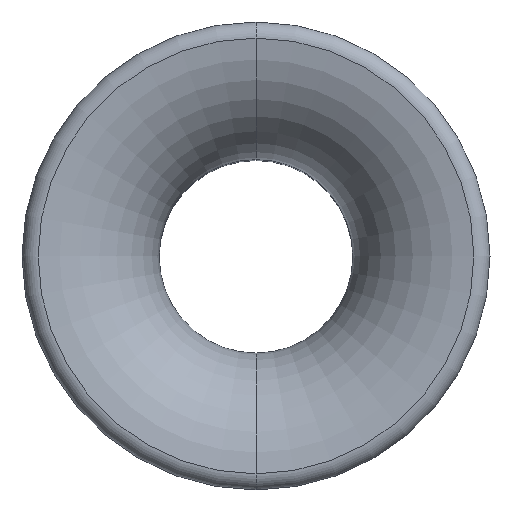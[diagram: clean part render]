
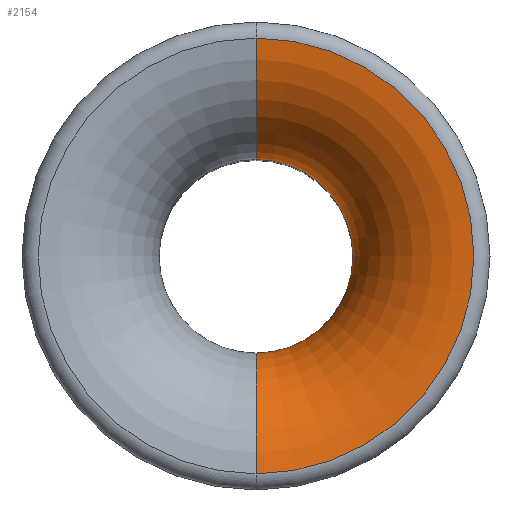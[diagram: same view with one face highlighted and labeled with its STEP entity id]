
A CAD part, top view. The second image highlights one B-rep face of the part: STEP entity #2154.
In plain terms, the highlighted toroidal (fillet/blend) face has major radius 14 mm and minor radius 8 mm.
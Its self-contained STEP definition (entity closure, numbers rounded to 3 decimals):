
#2154 = ADVANCED_FACE ( 'NONE', ( #3563 ), #3792, .T. ) ;
#2155 = EDGE_LOOP ( 'NONE', ( #2156, #2160, #2163, #2212 ) ) ;
#2156 = ORIENTED_EDGE ( 'NONE', *, *, #2157, .T. ) ;
#2157 = EDGE_CURVE ( 'NONE', #2158, #2159, #3789, .T. ) ;
#2158 = VERTEX_POINT ( 'NONE', #3784 ) ;
#2159 = VERTEX_POINT ( 'NONE', #3783 ) ;
#2160 = ORIENTED_EDGE ( 'NONE', *, *, #2161, .T. ) ;
#2161 = EDGE_CURVE ( 'NONE', #2159, #2162, #3782, .T. ) ;
#2162 = VERTEX_POINT ( 'NONE', #3777 ) ;
#2163 = ORIENTED_EDGE ( 'NONE', *, *, #2210, .F. ) ;
#2210 = EDGE_CURVE ( 'NONE', #2211, #2162, #3755, .T. ) ;
#2211 = VERTEX_POINT ( 'NONE', #3750 ) ;
#2212 = ORIENTED_EDGE ( 'NONE', *, *, #2213, .F. ) ;
#2213 = EDGE_CURVE ( 'NONE', #2158, #2211, #3748, .T. ) ;
#3561 = CARTESIAN_POINT ( 'NONE',  ( 0., 0., 38.516 ) ) ;
#3562 = DIRECTION ( 'NONE',  ( 0., 0., 1. ) ) ;
#3563 = FACE_OUTER_BOUND ( 'NONE', #2155, .T. ) ;
#3744 = DIRECTION ( 'NONE',  ( 0., 0., 1. ) ) ;
#3745 = DIRECTION ( 'NONE',  ( -1., 0., 0. ) ) ;
#3746 = CARTESIAN_POINT ( 'NONE',  ( 0., -14., 38.516 ) ) ;
#3747 = AXIS2_PLACEMENT_3D ( 'NONE', #3746, #3745, #3744 ) ;
#3748 = CIRCLE ( 'NONE', #3747, 8. ) ;
#3750 = CARTESIAN_POINT ( 'NONE',  ( 0., -6., 38.516 ) ) ;
#3751 = DIRECTION ( 'NONE',  ( 0., -1., 0. ) ) ;
#3752 = DIRECTION ( 'NONE',  ( 0., 0., 1. ) ) ;
#3753 = CARTESIAN_POINT ( 'NONE',  ( 0., 0., 38.516 ) ) ;
#3754 = AXIS2_PLACEMENT_3D ( 'NONE', #3753, #3752, #3751 ) ;
#3755 = CIRCLE ( 'NONE', #3754, 6. ) ;
#3777 = CARTESIAN_POINT ( 'NONE',  ( 0., 6., 38.516 ) ) ;
#3778 = DIRECTION ( 'NONE',  ( 0., 1., 0. ) ) ;
#3779 = DIRECTION ( 'NONE',  ( 1., 0., 0. ) ) ;
#3780 = CARTESIAN_POINT ( 'NONE',  ( 0., 14., 38.516 ) ) ;
#3781 = AXIS2_PLACEMENT_3D ( 'NONE', #3780, #3779, #3778 ) ;
#3782 = CIRCLE ( 'NONE', #3781, 8. ) ;
#3783 = CARTESIAN_POINT ( 'NONE',  ( 0., 13.5, 46.5 ) ) ;
#3784 = CARTESIAN_POINT ( 'NONE',  ( 0., -13.5, 46.5 ) ) ;
#3785 = DIRECTION ( 'NONE',  ( 0., -1., 0. ) ) ;
#3786 = DIRECTION ( 'NONE',  ( 0., 0., 1. ) ) ;
#3787 = CARTESIAN_POINT ( 'NONE',  ( 0., 0., 46.5 ) ) ;
#3788 = AXIS2_PLACEMENT_3D ( 'NONE', #3787, #3786, #3785 ) ;
#3789 = CIRCLE ( 'NONE', #3788, 13.5 ) ;
#3790 = DIRECTION ( 'NONE',  ( 0., -1., 0. ) ) ;
#3791 = AXIS2_PLACEMENT_3D ( 'NONE', #3561, #3562, #3790 ) ;
#3792 = TOROIDAL_SURFACE ( 'NONE', #3791, 14., 8. ) ;
